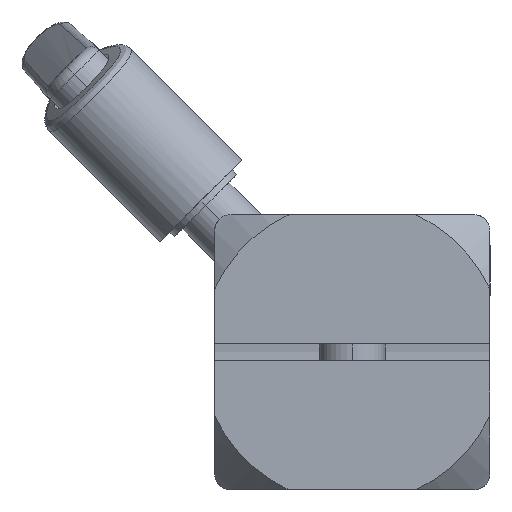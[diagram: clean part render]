
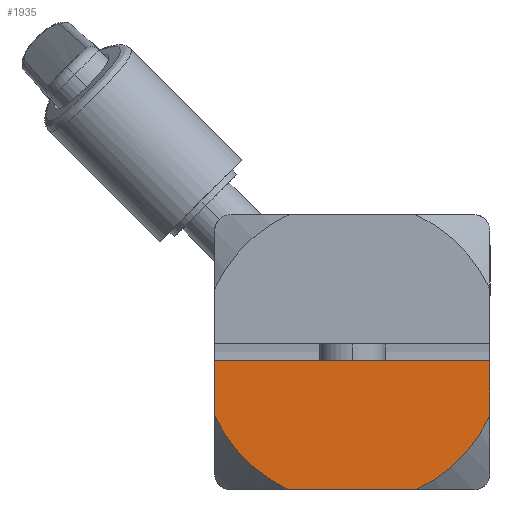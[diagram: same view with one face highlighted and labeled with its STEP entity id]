
A CAD part, front view. The second image highlights one B-rep face of the part: STEP entity #1935.
In plain terms, the highlighted planar face has unit normal (0, -1, 0) as drawn and (0, 0, -1) by its records, which use the part's own axes.
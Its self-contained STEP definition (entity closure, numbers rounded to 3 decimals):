
#6 = VECTOR ( 'NONE', #25, 1000. ) ;
#25 = DIRECTION ( 'NONE',  ( 0., -1., 0. ) ) ;
#51 = AXIS2_PLACEMENT_3D ( 'NONE', #2907, #1075, #2233 ) ;
#176 = CIRCLE ( 'NONE', #428, 13.75 ) ;
#210 = EDGE_CURVE ( 'NONE', #1367, #2510, #4998, .T. ) ;
#428 = AXIS2_PLACEMENT_3D ( 'NONE', #7557, #4528, #6444 ) ;
#432 = FACE_OUTER_BOUND ( 'NONE', #6157, .T. ) ;
#461 = ORIENTED_EDGE ( 'NONE', *, *, #2096, .F. ) ;
#641 = VECTOR ( 'NONE', #7915, 1000. ) ;
#687 = EDGE_CURVE ( 'NONE', #7321, #2724, #4971, .T. ) ;
#985 = ORIENTED_EDGE ( 'NONE', *, *, #6037, .T. ) ;
#1075 = DIRECTION ( 'NONE',  ( 0., 0., -1. ) ) ;
#1203 = PLANE ( 'NONE',  #51 ) ;
#1367 = VERTEX_POINT ( 'NONE', #2475 ) ;
#1559 = CARTESIAN_POINT ( 'NONE',  ( 12.5, 0.75, -34. ) ) ;
#1877 = CARTESIAN_POINT ( 'NONE',  ( 12.5, 11., -34. ) ) ;
#1893 = CARTESIAN_POINT ( 'NONE',  ( -5.728, 12.5, -34. ) ) ;
#1935 = ADVANCED_FACE ( 'NONE', ( #432 ), #1203, .T. ) ;
#1953 = CARTESIAN_POINT ( 'NONE',  ( -12.5, 0.75, -34. ) ) ;
#2096 = EDGE_CURVE ( 'NONE', #1367, #4198, #176, .T. ) ;
#2233 = DIRECTION ( 'NONE',  ( -1., 0., 0. ) ) ;
#2322 = LINE ( 'NONE', #3144, #3974 ) ;
#2335 = VECTOR ( 'NONE', #7472, 1000. ) ;
#2475 = CARTESIAN_POINT ( 'NONE',  ( 12.5, 5.728, -34. ) ) ;
#2510 = VERTEX_POINT ( 'NONE', #1559 ) ;
#2706 = DIRECTION ( 'NONE',  ( 1., 0., 0. ) ) ;
#2724 = VERTEX_POINT ( 'NONE', #5262 ) ;
#2845 = DIRECTION ( 'NONE',  ( 0., 0., 1. ) ) ;
#2907 = CARTESIAN_POINT ( 'NONE',  ( -11., -11., -34. ) ) ;
#3105 = LINE ( 'NONE', #8032, #641 ) ;
#3144 = CARTESIAN_POINT ( 'NONE',  ( -11., 12.5, -34. ) ) ;
#3154 = CARTESIAN_POINT ( 'NONE',  ( -12.5, 11., -34. ) ) ;
#3454 = EDGE_CURVE ( 'NONE', #3728, #2724, #6015, .T. ) ;
#3728 = VERTEX_POINT ( 'NONE', #1893 ) ;
#3828 = AXIS2_PLACEMENT_3D ( 'NONE', #6635, #2845, #7771 ) ;
#3974 = VECTOR ( 'NONE', #2706, 1000. ) ;
#4198 = VERTEX_POINT ( 'NONE', #6876 ) ;
#4466 = ORIENTED_EDGE ( 'NONE', *, *, #687, .T. ) ;
#4528 = DIRECTION ( 'NONE',  ( 0., 0., 1. ) ) ;
#4971 = LINE ( 'NONE', #3154, #2335 ) ;
#4998 = LINE ( 'NONE', #1877, #6 ) ;
#5262 = CARTESIAN_POINT ( 'NONE',  ( -12.5, 5.728, -34. ) ) ;
#5827 = ORIENTED_EDGE ( 'NONE', *, *, #7129, .F. ) ;
#6015 = CIRCLE ( 'NONE', #3828, 13.75 ) ;
#6037 = EDGE_CURVE ( 'NONE', #3728, #4198, #2322, .T. ) ;
#6062 = ORIENTED_EDGE ( 'NONE', *, *, #3454, .F. ) ;
#6157 = EDGE_LOOP ( 'NONE', ( #461, #7878, #5827, #4466, #6062, #985 ) ) ;
#6444 = DIRECTION ( 'NONE',  ( 1., 0., 0. ) ) ;
#6635 = CARTESIAN_POINT ( 'NONE',  ( 0., 0., -34. ) ) ;
#6876 = CARTESIAN_POINT ( 'NONE',  ( 5.728, 12.5, -34. ) ) ;
#7129 = EDGE_CURVE ( 'NONE', #7321, #2510, #3105, .T. ) ;
#7321 = VERTEX_POINT ( 'NONE', #1953 ) ;
#7472 = DIRECTION ( 'NONE',  ( 0., 1., 0. ) ) ;
#7557 = CARTESIAN_POINT ( 'NONE',  ( 0., 0., -34. ) ) ;
#7771 = DIRECTION ( 'NONE',  ( -1., 0., 0. ) ) ;
#7878 = ORIENTED_EDGE ( 'NONE', *, *, #210, .T. ) ;
#7915 = DIRECTION ( 'NONE',  ( 1., 0., 0. ) ) ;
#8032 = CARTESIAN_POINT ( 'NONE',  ( -12.5, 0.75, -34. ) ) ;
